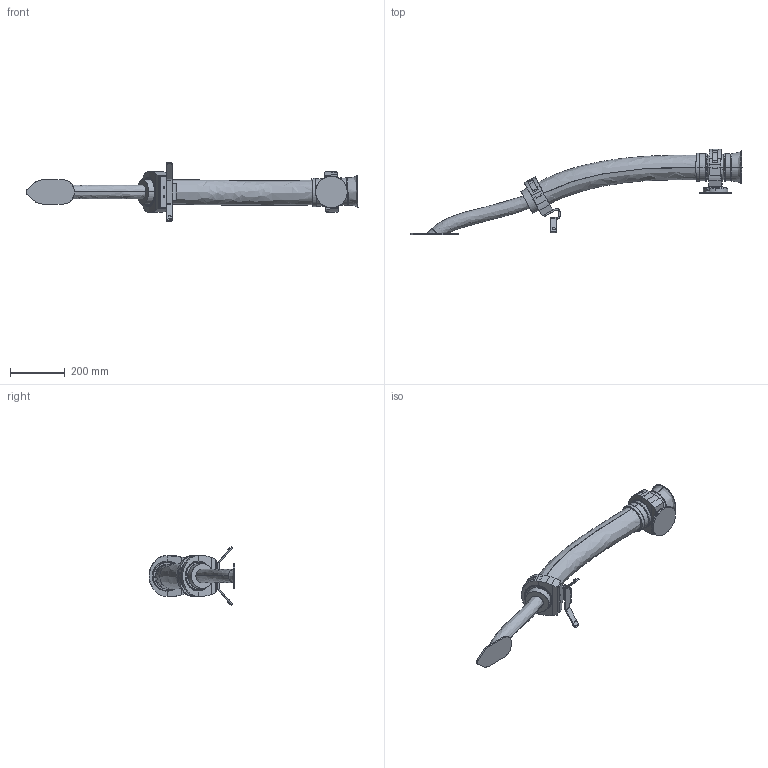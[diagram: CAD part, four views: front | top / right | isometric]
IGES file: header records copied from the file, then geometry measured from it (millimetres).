
Start section: SolidWorks IGES file using analytic representation for surfaces
Global section: file name: C:\Users\SEJAOLS6\OneDrive - ABB\Documents\SAP\7720\7720_Lightweight_models\IRB7720-LID-SW_480kg-310_OC_01_SW_J\IRB7720-LID-SW_480kg-310_OC_01_IGES_J\IRB7720-LID_All-310_OC_01_LINK04_CABLE.igs; native system: SolidWorks 2024; preprocessor: SolidWorks 2024; author: SEJAOLS6; date: 260127.081326; units: millimetre
Bounding box: 1211.8 x 313.49 x 213.34 mm (x, y, z)
Surface area: 465641.4 mm2 (no closed solid volume)
Topology: 0 solids, 0 shells, 391 faces, 6988 edges, 6988 vertices
Faces by surface type: bspline 219, revolution 172
